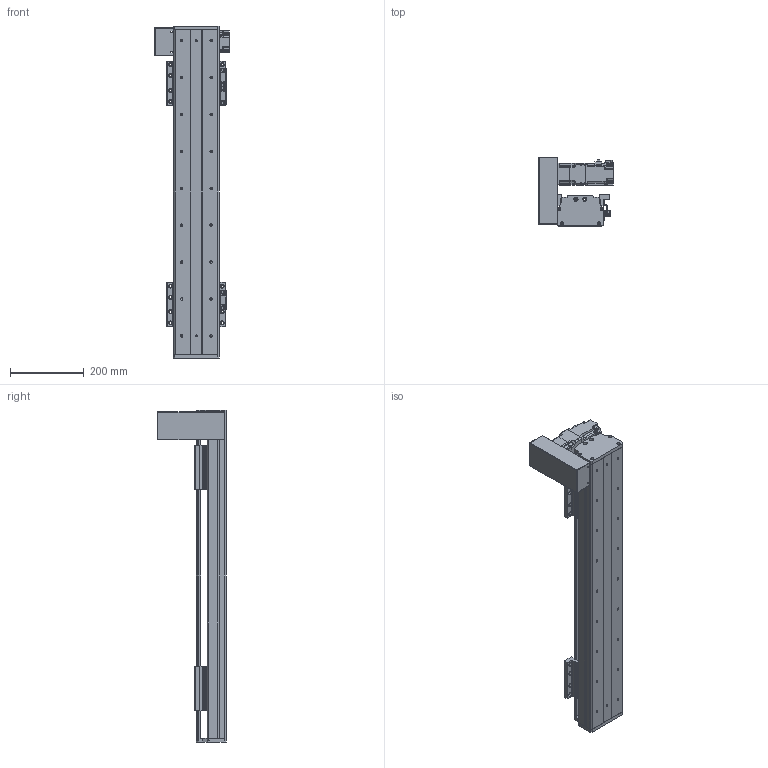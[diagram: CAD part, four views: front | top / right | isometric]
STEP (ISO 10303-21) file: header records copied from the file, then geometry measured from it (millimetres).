
FILE_DESCRIPTION(/* description */ (''),/* implementation_level */ '2;1');
FILE_NAME(/* name */ 'C:\Users\PC\Desktop\3D도면\STEP\DSB125-UL2G-W0600-R.stp',/* time_stamp */ '2018-06-19T00:40:05-07:00',/* author */ ('PC'),/* organization */ (''),/* preprocessor_version */ 'ST-DEVELOPER v16.5',/* originating_system */ 'Autodesk Inventor 2017',/* authorisation */ '');
FILE_SCHEMA (('AUTOMOTIVE_DESIGN { 1 0 10303 214 3 1 1 }'));
Length unit declared in the file: millimetre
Products named in the file (12): DSB125-L-300ST; DSR125-BASE(S-TYPE); DSR125-UP COVER-R01(170203); DSR125-REAR COVER-R01(170203); DSR125-REAR COVER-R01(170203)_1; hg-kr23_; ab0601-p0401200402; 13-BELT COVER; DSR126-SENSOR DOG; SENSOR BRACKET(EE-SX674A); pm-y65_step; DSR125-TABLE(MSA15X)
Assembly tree (16 placements, depth 2):
  DSB125-L-300ST
    DSR125-BASE(S-TYPE)
    DSR125-UP COVER-R01(170203)
    DSR125-REAR COVER-R01(170203)
    DSR125-REAR COVER-R01(170203)_1
    hg-kr23_
    ab0601-p0401200402
    13-BELT COVER
    DSR126-SENSOR DOG
    SENSOR BRACKET(EE-SX674A)  x3
    pm-y65_step  x3
    DSR125-TABLE(MSA15X)  x2
Bounding box: 202.1 x 187 x 900 mm (x, y, z)
Volume: 3697010.1 mm3; surface area: 1068018.3 mm2
Topology: 17 solids, 22 shells, 1657 faces, 4491 edges, 2964 vertices
Faces by surface type: plane 908, cylinder 629, cone 108, sphere 8, torus 4
Full cylindrical faces by diameter (mm): 2.459 x20, 3.242 x16, 3.5 x6, 4 x1, 4.134 x16, 4.2 x4, 4.3 x1, 4.5 x50, 4.917 x20, 5 x27, 5.3 x1, 5.5 x4, 5.6 x8, 5.8 x4, 5.9 x8, 6 x4, 6.6 x22, 6.647 x18, 7.5 x32, 8.5 x8, 8.7 x1, 11 x22, 14 x1, 16 x2, 17 x1, 20 x1, 47 x1, 50 x3
Entity records: 35270 total; most frequent: CARTESIAN_POINT 6487, DIRECTION 6108, ORIENTED_EDGE 5470, EDGE_CURVE 2740, AXIS2_PLACEMENT_3D 2242, VERTEX_POINT 1949, EDGE_LOOP 1665, LINE 1624
